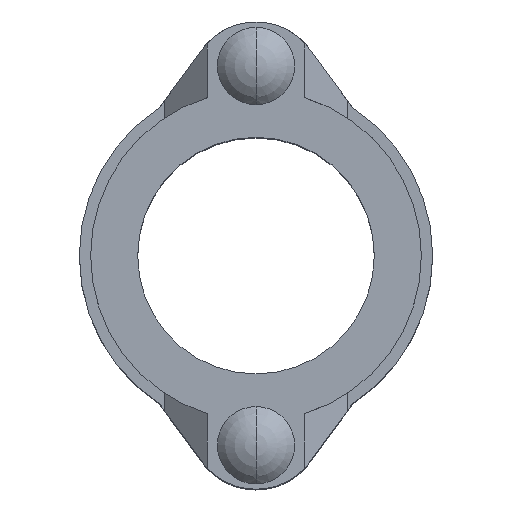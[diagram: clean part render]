
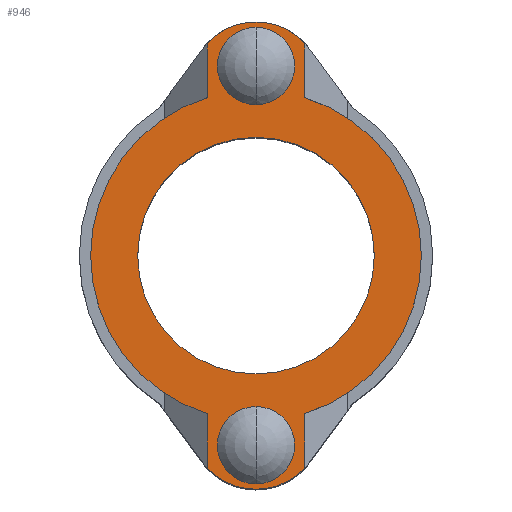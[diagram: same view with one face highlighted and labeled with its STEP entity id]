
A CAD part, top view. The second image highlights one B-rep face of the part: STEP entity #946.
In plain terms, the highlighted planar face has unit normal (0, 0, 1).
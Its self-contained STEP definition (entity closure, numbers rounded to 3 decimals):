
#249=CARTESIAN_POINT('',(0.,0.,0.));
#250=DIRECTION('',(0.,0.,1.));
#251=DIRECTION('',(0.,1.,0.));
#252=AXIS2_PLACEMENT_3D('',#249,#250,#251);
#258=CARTESIAN_POINT('',(0.,0.,0.));
#259=DIRECTION('',(0.,0.,-1.));
#260=DIRECTION('',(0.,1.,0.));
#261=AXIS2_PLACEMENT_3D('',#258,#259,#260);
#267=DIRECTION('',(0.,1.,0.));
#268=VECTOR('',#267,18.01);
#269=CARTESIAN_POINT('',(16.,-70.1,0.));
#270=LINE('',#269,#268);
#271=CARTESIAN_POINT('',(0.,-55.,0.));
#272=DIRECTION('',(0.,0.,1.));
#273=DIRECTION('',(-0.727,-0.686,0.));
#274=AXIS2_PLACEMENT_3D('',#271,#272,#273);
#276=DIRECTION('',(0.,1.,0.));
#277=VECTOR('',#276,18.01);
#278=CARTESIAN_POINT('',(-16.,-70.1,0.));
#279=LINE('',#278,#277);
#280=CARTESIAN_POINT('',(0.,0.,0.));
#281=DIRECTION('',(0.,0.,-1.));
#282=DIRECTION('',(-0.294,-0.956,0.));
#283=AXIS2_PLACEMENT_3D('',#280,#281,#282);
#285=DIRECTION('',(0.,1.,0.));
#286=VECTOR('',#285,0.015);
#287=CARTESIAN_POINT('',(-43.967,-32.205,0.));
#288=LINE('',#287,#286);
#289=CARTESIAN_POINT('',(0.,0.,0.));
#290=DIRECTION('',(0.,0.,1.));
#291=DIRECTION('',(-0.807,0.591,0.));
#292=AXIS2_PLACEMENT_3D('',#289,#290,#291);
#294=DIRECTION('',(0.,-1.,0.));
#295=VECTOR('',#294,0.015);
#296=CARTESIAN_POINT('',(-43.967,32.205,0.));
#297=LINE('',#296,#295);
#298=CARTESIAN_POINT('',(0.,0.,0.));
#299=DIRECTION('',(0.,0.,-1.));
#300=DIRECTION('',(-0.807,0.591,0.));
#301=AXIS2_PLACEMENT_3D('',#298,#299,#300);
#303=DIRECTION('',(0.,-1.,0.));
#304=VECTOR('',#303,18.01);
#305=CARTESIAN_POINT('',(-16.,70.1,0.));
#306=LINE('',#305,#304);
#307=CARTESIAN_POINT('',(0.,55.,0.));
#308=DIRECTION('',(0.,0.,1.));
#309=DIRECTION('',(0.727,0.686,0.));
#310=AXIS2_PLACEMENT_3D('',#307,#308,#309);
#312=DIRECTION('',(0.,-1.,0.));
#313=VECTOR('',#312,18.01);
#314=CARTESIAN_POINT('',(16.,70.1,0.));
#315=LINE('',#314,#313);
#316=CARTESIAN_POINT('',(0.,0.,0.));
#317=DIRECTION('',(0.,0.,-1.));
#318=DIRECTION('',(0.294,0.956,0.));
#319=AXIS2_PLACEMENT_3D('',#316,#317,#318);
#321=DIRECTION('',(0.,-1.,0.));
#322=VECTOR('',#321,0.015);
#323=CARTESIAN_POINT('',(43.967,32.205,0.));
#324=LINE('',#323,#322);
#325=CARTESIAN_POINT('',(0.,0.,0.));
#326=DIRECTION('',(0.,0.,-1.));
#327=DIRECTION('',(0.807,0.591,0.));
#328=AXIS2_PLACEMENT_3D('',#325,#326,#327);
#330=DIRECTION('',(0.,1.,0.));
#331=VECTOR('',#330,0.015);
#332=CARTESIAN_POINT('',(43.967,-32.205,0.));
#333=LINE('',#332,#331);
#334=CARTESIAN_POINT('',(0.,0.,0.));
#335=DIRECTION('',(0.,0.,-1.));
#336=DIRECTION('',(0.807,-0.591,0.));
#337=AXIS2_PLACEMENT_3D('',#334,#335,#336);
#346=CARTESIAN_POINT('',(16.,-52.089,0.));
#348=CARTESIAN_POINT('',(43.967,-32.19,0.));
#360=CARTESIAN_POINT('',(-16.,-52.089,0.));
#375=CARTESIAN_POINT('',(-43.967,-32.19,0.));
#741=CARTESIAN_POINT('',(0.,39.,0.));
#743=VERTEX_POINT('',#741);
#745=CARTESIAN_POINT('',(0.,-39.,0.));
#747=VERTEX_POINT('',#745);
#765=CARTESIAN_POINT('',(16.,70.1,0.));
#766=CARTESIAN_POINT('',(16.,52.089,0.));
#767=VERTEX_POINT('',#765);
#768=VERTEX_POINT('',#766);
#772=CARTESIAN_POINT('',(-16.,70.1,0.));
#773=VERTEX_POINT('',#772);
#788=CARTESIAN_POINT('',(-16.,52.089,0.));
#789=VERTEX_POINT('',#788);
#807=CARTESIAN_POINT('',(-43.967,32.205,0.));
#808=CARTESIAN_POINT('',(-43.967,32.19,0.));
#809=VERTEX_POINT('',#807);
#810=VERTEX_POINT('',#808);
#811=CARTESIAN_POINT('',(43.967,32.205,0.));
#812=CARTESIAN_POINT('',(43.967,32.19,0.));
#813=VERTEX_POINT('',#811);
#814=VERTEX_POINT('',#812);
#825=VERTEX_POINT('',#346);
#832=VERTEX_POINT('',#360);
#845=VERTEX_POINT('',#375);
#846=VERTEX_POINT('',#348);
#851=CARTESIAN_POINT('',(16.,-70.1,0.));
#852=VERTEX_POINT('',#851);
#853=CARTESIAN_POINT('',(-16.,-70.1,0.));
#854=VERTEX_POINT('',#853);
#855=CARTESIAN_POINT('',(-43.967,-32.205,0.));
#856=VERTEX_POINT('',#855);
#857=CARTESIAN_POINT('',(43.967,-32.205,0.));
#858=VERTEX_POINT('',#857);
#903=CARTESIAN_POINT('',(0.,0.,0.));
#904=DIRECTION('',(0.,0.,1.));
#905=DIRECTION('',(0.,1.,0.));
#906=AXIS2_PLACEMENT_3D('',#903,#904,#905);
#907=PLANE('',#906);
#909=ORIENTED_EDGE('',*,*,#908,.F.);
#911=ORIENTED_EDGE('',*,*,#910,.F.);
#913=ORIENTED_EDGE('',*,*,#912,.T.);
#915=ORIENTED_EDGE('',*,*,#914,.T.);
#917=ORIENTED_EDGE('',*,*,#916,.F.);
#919=ORIENTED_EDGE('',*,*,#918,.F.);
#921=ORIENTED_EDGE('',*,*,#920,.T.);
#923=ORIENTED_EDGE('',*,*,#922,.T.);
#925=ORIENTED_EDGE('',*,*,#924,.F.);
#927=ORIENTED_EDGE('',*,*,#926,.F.);
#929=ORIENTED_EDGE('',*,*,#928,.T.);
#931=ORIENTED_EDGE('',*,*,#930,.T.);
#933=ORIENTED_EDGE('',*,*,#932,.F.);
#935=ORIENTED_EDGE('',*,*,#934,.T.);
#937=ORIENTED_EDGE('',*,*,#936,.T.);
#939=ORIENTED_EDGE('',*,*,#938,.T.);
#940=EDGE_LOOP('',(#909,#911,#913,#915,#917,#919,#921,#923,#925,#927,#929,#931,
#933,#935,#937,#939));
#941=FACE_OUTER_BOUND('',#940,.F.);
#942=ORIENTED_EDGE('',*,*,#895,.F.);
#943=ORIENTED_EDGE('',*,*,#884,.T.);
#944=EDGE_LOOP('',(#942,#943));
#945=FACE_BOUND('',#944,.F.);
#946=ADVANCED_FACE('',(#941,#945),#907,.T.);
#253=CIRCLE('',#252,39.);
#262=CIRCLE('',#261,39.);
#275=CIRCLE('',#274,22.);
#284=CIRCLE('',#283,54.491);
#293=CIRCLE('',#292,54.5);
#302=CIRCLE('',#301,54.491);
#311=CIRCLE('',#310,22.);
#320=CIRCLE('',#319,54.491);
#329=CIRCLE('',#328,54.5);
#338=CIRCLE('',#337,54.491);
#884=EDGE_CURVE('',#743,#747,#253,.T.);
#895=EDGE_CURVE('',#743,#747,#262,.T.);
#908=EDGE_CURVE('',#852,#825,#270,.T.);
#910=EDGE_CURVE('',#854,#852,#275,.T.);
#912=EDGE_CURVE('',#854,#832,#279,.T.);
#914=EDGE_CURVE('',#832,#845,#284,.T.);
#916=EDGE_CURVE('',#856,#845,#288,.T.);
#918=EDGE_CURVE('',#809,#856,#293,.T.);
#920=EDGE_CURVE('',#809,#810,#297,.T.);
#922=EDGE_CURVE('',#810,#789,#302,.T.);
#924=EDGE_CURVE('',#773,#789,#306,.T.);
#926=EDGE_CURVE('',#767,#773,#311,.T.);
#928=EDGE_CURVE('',#767,#768,#315,.T.);
#930=EDGE_CURVE('',#768,#814,#320,.T.);
#932=EDGE_CURVE('',#813,#814,#324,.T.);
#934=EDGE_CURVE('',#813,#858,#329,.T.);
#936=EDGE_CURVE('',#858,#846,#333,.T.);
#938=EDGE_CURVE('',#846,#825,#338,.T.);
